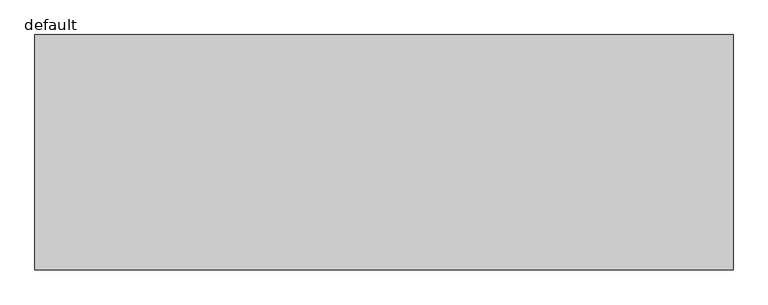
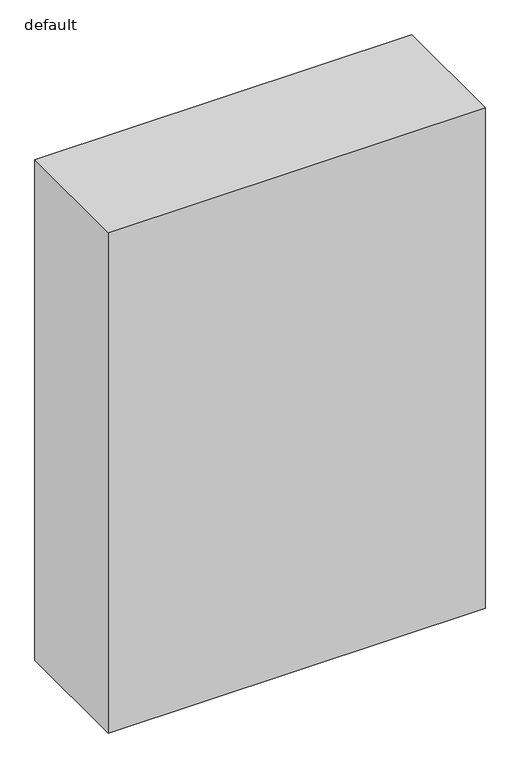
"""IFC4 building model written with IfcOpenShell, lengths in millimetres: furniture geometry, Fu_шкаф встроенный_LEG : default."""

import ifcopenshell
import ifcopenshell.guid

model = None  # the IFC model being written
_history = None  # IfcOwnerHistory: only IFC2X3 demands one
_inside = {}  # id of a spatial element -> (the spatial element, [elements in it])
_under = {}  # id of a project, library or spatial element -> (it, [spatial elements below it])
_declared = {}  # id of a project -> (the project, [libraries it declares])
_typed = {}  # id of a type object -> (the type object, [elements of that type])
_made_of = {}  # id of a material, layer set ... -> (it, [elements and type objects made of it])


def new_model(schema):
    """Start an empty IFC model of exactly this schema.

    Asked for "IFC4X3", IfcOpenShell would pick the latest addendum, in which some entities
    have other attributes; the version numbers below select the first issue.
    IFC2X3 requires an IfcOwnerHistory on every rooted entity: one is made here for all.
    """
    global model, _history
    if schema == "IFC4X3":
        model = ifcopenshell.file(schema_version=(4, 3, 0, 0))
    else:
        model = ifcopenshell.file(schema=schema)
    _inside.clear()
    _under.clear()
    _declared.clear()
    _typed.clear()
    _made_of.clear()
    _history = None
    if model.schema == "IFC2X3":
        org = make("IfcOrganization", Name="unknown")
        user = make(
            "IfcPersonAndOrganization",
            ThePerson=make("IfcPerson", FamilyName="unknown"),
            TheOrganization=org,
        )
        app = make(
            "IfcApplication",
            ApplicationDeveloper=org,
            Version="unknown",
            ApplicationFullName="unknown",
            ApplicationIdentifier="unknown",
        )
        _history = make(
            "IfcOwnerHistory",
            OwningUser=user,
            OwningApplication=app,
            ChangeAction="ADDED",
            CreationDate=0,
        )
    return model


def make(cls, **values):
    """One entity of the class cls with the attributes given. An attribute that is None is left unset."""
    return model.create_entity(
        cls, **{name: value for name, value in values.items() if value is not None}
    )


def rooted(cls, **values):
    """An entity with a GlobalId (a new one), such as an element, a storey or a relation."""
    return make(cls, GlobalId=ifcopenshell.guid.new(), OwnerHistory=_history, **values)


def si_unit(unit_type, name, prefix=None):
    """IfcSIUnit, for example si_unit("LENGTHUNIT", "METRE", prefix="MILLI")."""
    return make("IfcSIUnit", UnitType=unit_type, Prefix=prefix, Name=name)


def assignment(units):
    """IfcUnitAssignment: the units of a project."""
    return None if units is None else make("IfcUnitAssignment", Units=units)


def point(xyz):
    """IfcCartesianPoint."""
    return None if xyz is None else make("IfcCartesianPoint", Coordinates=xyz)


def direction(xyz):
    """IfcDirection."""
    return None if xyz is None else make("IfcDirection", DirectionRatios=xyz)


def frame(location, z_axis=None, x_axis=None):
    """IfcAxis2Placement3D, a coordinate frame: its origin and axes. An axis left out is left unset."""
    return make(
        "IfcAxis2Placement3D",
        Location=point(location),
        Axis=direction(z_axis),
        RefDirection=direction(x_axis),
    )


def origin():
    """The frame at (0, 0, 0) with its axes left unset."""
    return frame((0.0, 0.0, 0.0))


def origin_with_axes():
    """The frame at (0, 0, 0) with the z axis (0, 0, 1) and the x axis (1, 0, 0) written out."""
    return frame((0.0, 0.0, 0.0), z_axis=(0.0, 0.0, 1.0), x_axis=(1.0, 0.0, 0.0))


def place(relative_to, where):
    """IfcLocalPlacement: puts the frame where relative to a parent placement (None: the world)."""
    return make(
        "IfcLocalPlacement", PlacementRelTo=relative_to, RelativePlacement=where
    )


def context(
    kind, dimensions, precision=None, world=None, true_north=None, identifier=None
):
    """IfcGeometricRepresentationContext, for example the 3D "Model" context."""
    return make(
        "IfcGeometricRepresentationContext",
        ContextIdentifier=identifier,
        ContextType=kind,
        CoordinateSpaceDimension=dimensions,
        Precision=precision,
        WorldCoordinateSystem=world,
        TrueNorth=true_north,
    )


def project(units=None, contexts=None):
    """IfcProject with its units and contexts."""
    return rooted(
        "IfcProject",
        Name="project",
        RepresentationContexts=contexts,
        UnitsInContext=assignment(units),
    )


def spatial(cls, under=None, at=None, **own):
    """A site, building, storey or space (cls), placed at a placement, below another one or the project."""
    s = rooted(cls, ObjectPlacement=at, **own)
    if under is not None:
        _under.setdefault(under.id(), (under, []))[1].append(s)
    return s


def polyline(points):
    """IfcPolyline through the points."""
    return make("IfcPolyline", Points=[point(p) for p in points])


def outline(outer, holes=None, kind="AREA"):
    """IfcArbitraryClosedProfileDef: a profile drawn as a closed curve; with holes, ...WithVoids."""
    if holes is None:
        return make("IfcArbitraryClosedProfileDef", ProfileType=kind, OuterCurve=outer)
    return make(
        "IfcArbitraryProfileDefWithVoids",
        ProfileType=kind,
        OuterCurve=outer,
        InnerCurves=holes,
    )


def extrude(swept, where, along, depth):
    """IfcExtrudedAreaSolid: the profile swept, set in the frame where, extruded along a direction by depth."""
    return make(
        "IfcExtrudedAreaSolid",
        SweptArea=swept,
        Position=where,
        ExtrudedDirection=direction(along),
        Depth=depth,
    )


def shape(context_of_items, identifier, shape_type, items):
    """IfcShapeRepresentation: the items that make up one representation, for example the "Body"."""
    return make(
        "IfcShapeRepresentation",
        ContextOfItems=context_of_items,
        RepresentationIdentifier=identifier,
        RepresentationType=shape_type,
        Items=items,
    )


def source(mapping_origin, context_of_items, identifier, shape_type, items):
    """IfcRepresentationMap: a shape defined once, which mapped items show again and again."""
    return make(
        "IfcRepresentationMap",
        MappingOrigin=mapping_origin,
        MappedRepresentation=shape(context_of_items, identifier, shape_type, items),
    )


def transform(
    local_origin,
    x_axis=None,
    y_axis=None,
    z_axis=None,
    scale=None,
    scale2=None,
    scale3=None,
    uniform=True,
):
    """IfcCartesianTransformationOperator3D, or its non-uniform kind. x_axis, y_axis, z_axis: its Axis1, 2, 3."""
    if uniform:
        return make(
            "IfcCartesianTransformationOperator3D",
            Axis1=direction(x_axis),
            Axis2=direction(y_axis),
            LocalOrigin=point(local_origin),
            Scale=scale,
            Axis3=direction(z_axis),
        )
    return make(
        "IfcCartesianTransformationOperator3DnonUniform",
        Axis1=direction(x_axis),
        Axis2=direction(y_axis),
        LocalOrigin=point(local_origin),
        Scale=scale,
        Axis3=direction(z_axis),
        Scale2=scale2,
        Scale3=scale3,
    )


def mapped(mapping_source, mapping_target):
    """IfcMappedItem: shows the shape of a source again, moved by a transform."""
    return make(
        "IfcMappedItem", MappingSource=mapping_source, MappingTarget=mapping_target
    )


def made_of(thing, what):
    """Note that an element or type object is made of a material, layer set ...; save() writes the relation."""
    if what is not None:
        _made_of.setdefault(what.id(), (what, []))[1].append(thing)
    return thing


def element(
    cls,
    number,
    at=None,
    inside=None,
    cuts=None,
    type_object=None,
    material=None,
    context=None,
    identifier="Body",
    shape_type=None,
    held_by="IfcProductDefinitionShape",
    body=None,
    shapes=None,
    **own,
):
    """One element of the class cls, such as IfcWall. Its Tag is "e" and its number.

    at: its placement. inside: the storey or other place that contains it. cuts: it is an
    opening in that element (IfcRelVoidsElement). A single representation is given by context,
    identifier, shape_type and body (its items); several are given by shapes. held_by: the class
    of the entity that holds the representations. save() writes the other relations.
    """
    e = rooted(cls, Tag="e%d" % number, ObjectPlacement=at, **own)
    if body is not None:
        shapes = [shape(context, identifier, shape_type, body)]
    if shapes is not None:
        e.Representation = make(held_by, Representations=shapes)
    if inside is not None:
        _inside.setdefault(inside.id(), (inside, []))[1].append(e)
    if cuts is not None:
        rooted(
            "IfcRelVoidsElement", RelatingBuildingElement=cuts, RelatedOpeningElement=e
        )
    if type_object is not None:
        _typed.setdefault(type_object.id(), (type_object, []))[1].append(e)
    return made_of(e, material)


def aggregate(whole, parts):
    """IfcRelAggregates: a whole, such as a stair, and the parts it consists of."""
    return rooted("IfcRelAggregates", RelatingObject=whole, RelatedObjects=parts)


def save(model, path):
    """Write the relations noted so far, then the file.

    IfcRelAggregates (storeys below a building ...), IfcRelContainedInSpatialStructure (elements
    in a storey), IfcRelDefinesByType, IfcRelAssociatesMaterial and IfcRelDeclares: one each for
    every whole, place, type object, material and project.
    """
    for whole, parts in _under.values():
        aggregate(whole, parts)
    for where, things in _inside.values():
        rooted(
            "IfcRelContainedInSpatialStructure",
            RelatedElements=things,
            RelatingStructure=where,
        )
    for kind, things in _typed.values():
        rooted("IfcRelDefinesByType", RelatedObjects=things, RelatingType=kind)
    for what, things in _made_of.values():
        rooted("IfcRelAssociatesMaterial", RelatedObjects=things, RelatingMaterial=what)
    for by, libraries in _declared.values():
        rooted("IfcRelDeclares", RelatingContext=by, RelatedDefinitions=libraries)
    model.write(path)


def default_90ec50a8(model_context):
    return source(origin(), model_context, "Body", "SweptSolid", [
        extrude(outline(polyline([(1780.0, 0.0), (0.0, 0.0), (0.0, 600.0), (1780.0, 600.0), (1780.0, 0.0)])), origin_with_axes(), (0.0, 0.0, 1.0), 2500.0),
    ])


if __name__ == "__main__":
    model = new_model("IFC4")
    model_context = context("Model", 3, world=origin())
    ifc_project = project(units=[si_unit("LENGTHUNIT", "METRE", prefix="MILLI")], contexts=[model_context])
    site = spatial("IfcSite", under=ifc_project)
    building = spatial("IfcBuilding", under=site)
    placement = place(None, origin())
    default_shape = default_90ec50a8(model_context)
    element("IfcFurniture", 1, ObjectType="Fu_шкаф встроенный_LEG : default", at=placement, inside=building, context=model_context, shape_type="MappedRepresentation", body=[
        mapped(default_shape, transform((0.0, 0.0, 0.0), x_axis=(1.0, 0.0, 0.0), y_axis=(0.0, 1.0, 0.0), z_axis=(0.0, 0.0, 1.0))),
    ])
    save(model, "model.ifc")
